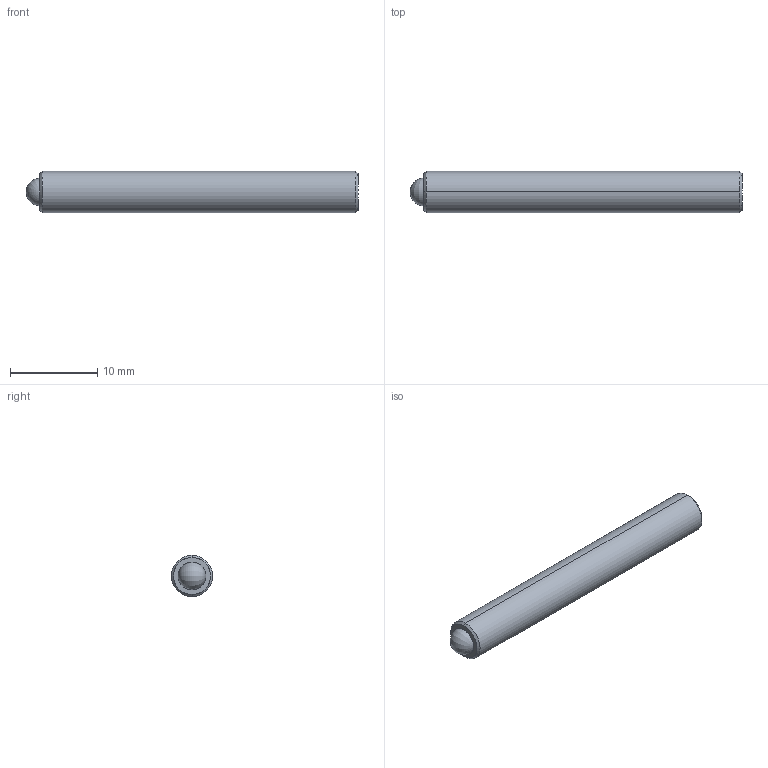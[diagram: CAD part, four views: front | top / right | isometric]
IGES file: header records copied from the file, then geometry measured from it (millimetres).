
Start section: SolidWorks IGES file using analytic representation for surfaces
Global section: file name: C:\Users\workpc\Desktop\KMA Solidworks\TS187-100-1500.IGS; native system: SolidWorks 2013; preprocessor: SolidWorks 2013; author: workpc; date: 130211.110215; units: inch
Bounding box: 38.1 x 4.75 x 4.75 mm (x, y, z)
Surface area: 638.9 mm2 (no closed solid volume)
Topology: 0 solids, 0 shells, 20 faces, 204 edges, 200 vertices
Faces by surface type: revolution 10, bspline 10
